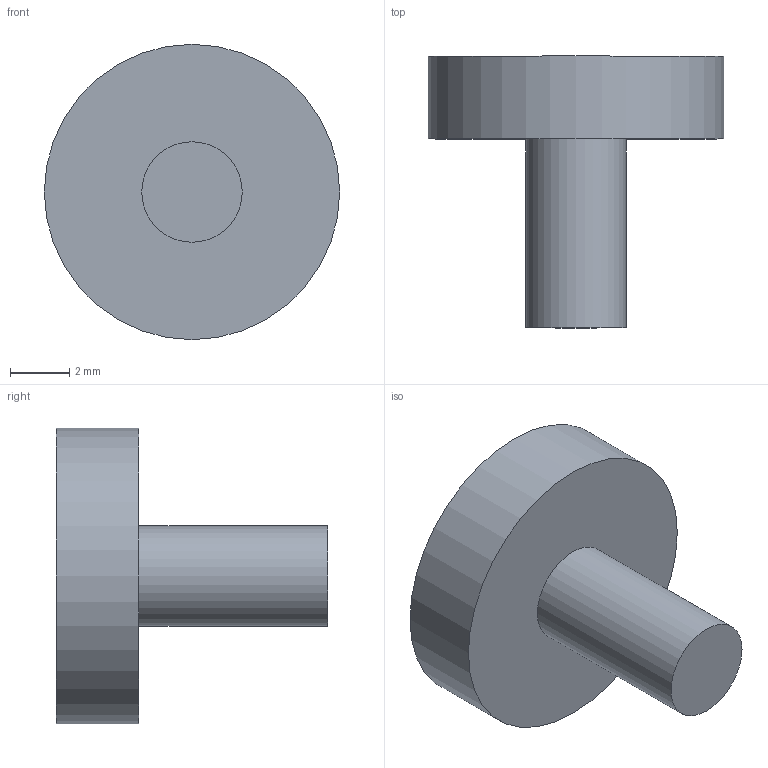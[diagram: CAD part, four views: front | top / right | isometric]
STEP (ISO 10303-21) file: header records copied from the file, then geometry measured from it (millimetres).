
FILE_DESCRIPTION(('Open CASCADE Model'),'2;1');
FILE_NAME('Open CASCADE Shape Model','2026-11-05T02:23:56',('Author'),( 'Open CASCADE'),'Open CASCADE STEP processor 7.8','Open CASCADE 7.8' ,'Unknown');
FILE_SCHEMA(('AUTOMOTIVE_DESIGN { 1 0 10303 214 1 1 1 1 }'));
Length unit declared in the file: millimetre
Products named in the file (1): Open CASCADE STEP translator 7.8 32
Bounding box: 10 x 9.2 x 10 mm (x, y, z)
Volume: 278 mm3; surface area: 313.4 mm2
Topology: 1 solids, 1 shells, 5 faces, 6 edges, 4 vertices
Faces by surface type: plane 3, cylinder 2
Full cylindrical faces by diameter (mm): 3.4 x1, 10 x1
Entity records: 204 total; most frequent: CARTESIAN_POINT 52, DIRECTION 30, ORIENTED_EDGE 12, PCURVE 12, DEFINITIONAL_REPRESENTATION 12, AXIS2_PLACEMENT_3D 10, LINE 10, VECTOR 10
